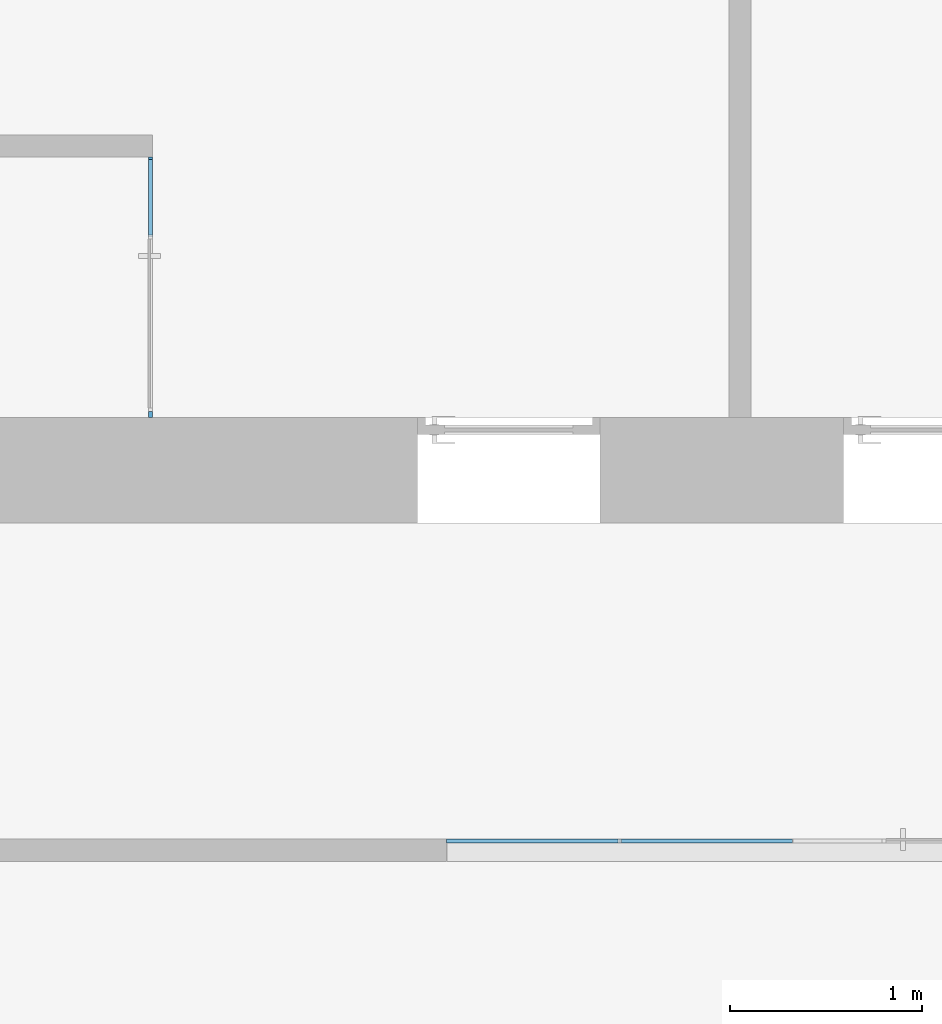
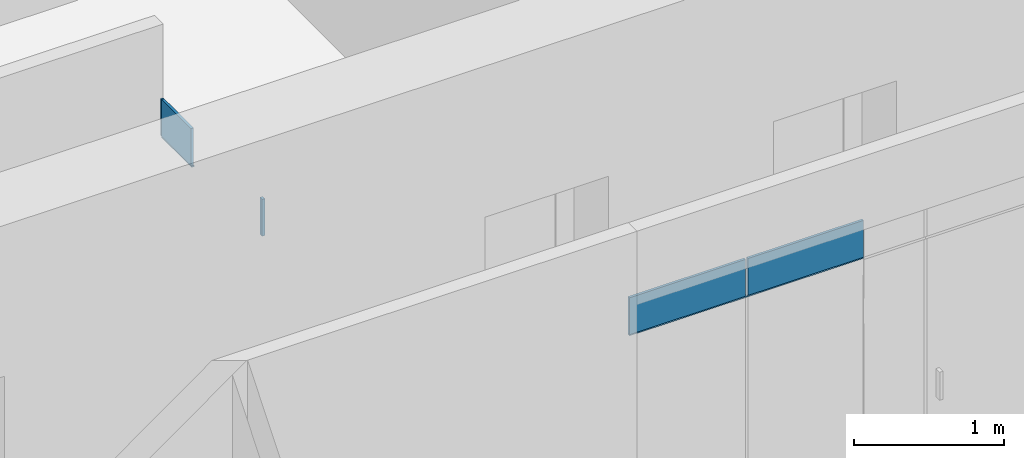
# One storey, part 39 of 73: 8 plates, 2 elements without a shape of their own.
"""IFC2X3 building model written with IfcOpenShell, lengths in millimetres."""

from ifc_helpers import new_model, entity, si_unit, converted_unit, derived_unit, direction, frame, origin, origin_2d_with_axis, place, context, subcontext, project, spatial, rectangle, extrude, source, transform, mapped, material, layer, layer_set, layer_usage, type_object, type_shapes, element, aggregate, save


model = new_model("IFC2X3")

# Units and contexts
model_context = context("Model", 3, precision=0.01, world=origin(), true_north=direction((6.12303176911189e-17, 1.0)))
body_context = subcontext(model_context, "Body", "Model", "MODEL_VIEW")
ifc_project = project(units=[si_unit("LENGTHUNIT", "METRE", prefix="MILLI"), si_unit("AREAUNIT", "SQUARE_METRE"), si_unit("VOLUMEUNIT", "CUBIC_METRE"), converted_unit("PLANEANGLEUNIT", "DEGREE", entity("IfcRatioMeasure", 0.0174532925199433), si_unit("PLANEANGLEUNIT", "RADIAN"), dimensions=[0, 0, 0, 0, 0, 0, 0]), si_unit("MASSUNIT", "GRAM", prefix="KILO"), derived_unit("MASSDENSITYUNIT", [(si_unit("MASSUNIT", "GRAM", prefix="KILO"), 1), (si_unit("LENGTHUNIT", "METRE"), -3)]), si_unit("TIMEUNIT", "SECOND"), si_unit("FREQUENCYUNIT", "HERTZ"), si_unit("THERMODYNAMICTEMPERATUREUNIT", "DEGREE_CELSIUS"), derived_unit("THERMALTRANSMITTANCEUNIT", [(si_unit("MASSUNIT", "GRAM", prefix="KILO"), 1), (si_unit("THERMODYNAMICTEMPERATUREUNIT", "KELVIN"), -1), (si_unit("TIMEUNIT", "SECOND"), -3)]), derived_unit("VOLUMETRICFLOWRATEUNIT", [(si_unit("LENGTHUNIT", "METRE"), 3), (si_unit("TIMEUNIT", "SECOND"), -1)]), si_unit("ELECTRICCURRENTUNIT", "AMPERE"), si_unit("ELECTRICVOLTAGEUNIT", "VOLT"), si_unit("POWERUNIT", "WATT"), si_unit("FORCEUNIT", "NEWTON", prefix="KILO"), si_unit("ILLUMINANCEUNIT", "LUX"), si_unit("LUMINOUSFLUXUNIT", "LUMEN"), si_unit("LUMINOUSINTENSITYUNIT", "CANDELA"), derived_unit("USERDEFINED", [(si_unit("MASSUNIT", "GRAM", prefix="KILO"), -1), (si_unit("LENGTHUNIT", "METRE"), -2), (si_unit("TIMEUNIT", "SECOND"), 3), (si_unit("LUMINOUSFLUXUNIT", "LUMEN"), 1)]), derived_unit("LINEARVELOCITYUNIT", [(si_unit("LENGTHUNIT", "METRE"), 1), (si_unit("TIMEUNIT", "SECOND"), -1)]), si_unit("PRESSUREUNIT", "PASCAL"), derived_unit("USERDEFINED", [(si_unit("LENGTHUNIT", "METRE"), -2), (si_unit("MASSUNIT", "GRAM", prefix="KILO"), 1), (si_unit("TIMEUNIT", "SECOND"), -2)])], contexts=[model_context])

# Site, building, storey
site_placement = place(None, frame((-151.875543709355, 2715.0, 0.0)))
site = spatial("IfcSite", under=ifc_project, at=site_placement, Name="Surface", CompositionType="ELEMENT")
building_placement = place(site_placement, origin())
building = spatial("IfcBuilding", under=site, at=building_placement, CompositionType="ELEMENT")
storey_placement = place(building_placement, frame((0.0, 0.0, 6730.43000000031)))
storey = spatial("IfcBuildingStorey", under=building, at=storey_placement, Name="3 korrus", CompositionType="ELEMENT", Elevation=6730.43000000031)

# Curtain wall, plates
curtain_wall_type_1 = type_object("IfcCurtainWallType", Name="Curtain Wall:Klaassein KLS-17", PredefinedType="NOTDEFINED")
curtain_wall_1_placement = place(storey_placement, frame((0.0, 0.0, -6730.43000000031)))
curtain_wall_1 = element("IfcCurtainWall", 1, at=curtain_wall_1_placement, inside=storey, type_object=curtain_wall_type_1, Name="Curtain Wall:Klaassein KLS-17", ObjectType="Curtain Wall:Klaassein KLS-17")
ifc_material = material(Name="<Unnamed>")
ifc_layer = layer(ifc_material, 20.0)
ifc_layer_set = layer_set([ifc_layer], Name="Curtain Wall:Klaassein KLS-01")
ifc_layer_usage_1 = layer_usage(ifc_layer_set, "AXIS3", "POSITIVE", 0.0)
plate_type_1 = type_object("IfcPlateType", Name="Glazed", PredefinedType="CURTAIN_PANEL", material=ifc_layer_set)
shared_shape_1 = source(origin(), body_context, "Body", "SweptSolid", [
    extrude(rectangle(XDim=20.0, YDim=901.999999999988, at=origin_2d_with_axis()), frame((0.0, 0.0, 0.0), z_axis=(0.0, 0.0, 1.0), x_axis=(0.0, 1.0, 0.0)), (0.0, 0.0, 1.0), 9.99999999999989),
])
type_shapes(plate_type_1, [shared_shape_1])
plate_1_placement = place(curtain_wall_1_placement, frame((12564.5647264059, 4355.04493399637, 8820.43000000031)))
plate_1 = element("IfcPlate", 2, at=plate_1_placement, type_object=plate_type_1, material=ifc_layer_usage_1, Name="System Panel:Glazed", ObjectType="Glazed", context=body_context, shape_type="MappedRepresentation", body=[
    mapped(shared_shape_1, transform((0.0, 0.0, 0.0), scale=1.0)),
])
ifc_layer_usage_2 = layer_usage(ifc_layer_set, "AXIS3", "POSITIVE", 0.0)
plate_type_2 = type_object("IfcPlateType", Name="Glazed", PredefinedType="CURTAIN_PANEL", material=ifc_layer_set)
shared_shape_2 = source(origin(), body_context, "Body", "SweptSolid", [
    extrude(rectangle(XDim=20.0, YDim=898.000000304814, at=origin_2d_with_axis()), frame((0.0, 0.0, 0.0), z_axis=(0.0, 0.0, 1.0), x_axis=(0.0, 1.0, 0.0)), (0.0, 0.0, 1.0), 9.99999999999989),
])
type_shapes(plate_type_2, [shared_shape_2])
plate_2_placement = place(curtain_wall_1_placement, frame((13464.5647265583, 4355.04493399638, 8820.43000000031)))
plate_2 = element("IfcPlate", 3, at=plate_2_placement, type_object=plate_type_2, material=ifc_layer_usage_2, Name="System Panel:Glazed", ObjectType="Glazed", context=body_context, shape_type="MappedRepresentation", body=[
    mapped(shared_shape_2, transform((0.0, 0.0, 0.0), scale=1.0)),
])
ifc_layer_usage_3 = layer_usage(ifc_layer_set, "AXIS3", "POSITIVE", 0.0)
plate_type_3 = type_object("IfcPlateType", Name="Glazed", PredefinedType="CURTAIN_PANEL", material=ifc_layer_set)
shared_shape_3 = source(origin(), body_context, "Body", "SweptSolid", [
    extrude(rectangle(XDim=20.0, YDim=891.999999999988, at=origin_2d_with_axis()), frame((0.0, 0.0, 0.0), z_axis=(0.0, 0.0, 1.0), x_axis=(0.0, 1.0, 0.0)), (0.0, 0.0, 1.0), 299.999999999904),
])
type_shapes(plate_type_3, [shared_shape_3])
plate_3_placement = place(curtain_wall_1_placement, frame((12559.5647264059, 4355.04493399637, 8830.43000000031)))
plate_3 = element("IfcPlate", 4, at=plate_3_placement, type_object=plate_type_3, material=ifc_layer_usage_3, Name="System Panel:Glazed", ObjectType="Glazed", context=body_context, shape_type="MappedRepresentation", body=[
    mapped(shared_shape_3, transform((0.0, 0.0, 0.0), scale=1.0)),
])
ifc_layer_usage_4 = layer_usage(ifc_layer_set, "AXIS3", "POSITIVE", 0.0)
plate_type_4 = type_object("IfcPlateType", Name="Glazed", PredefinedType="CURTAIN_PANEL", material=ifc_layer_set)
shared_shape_4 = source(origin(), body_context, "Body", "SweptSolid", [
    extrude(rectangle(XDim=20.0, YDim=888.000000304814, at=origin_2d_with_axis()), frame((0.0, 0.0, 0.0), z_axis=(0.0, 0.0, 1.0), x_axis=(0.0, 1.0, 0.0)), (0.0, 0.0, 1.0), 299.999999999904),
])
type_shapes(plate_type_4, [shared_shape_4])
plate_4_placement = place(curtain_wall_1_placement, frame((13469.5647265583, 4355.04493399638, 8830.43000000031)))
plate_4 = element("IfcPlate", 5, at=plate_4_placement, type_object=plate_type_4, material=ifc_layer_usage_4, Name="System Panel:Glazed", ObjectType="Glazed", context=body_context, shape_type="MappedRepresentation", body=[
    mapped(shared_shape_4, transform((0.0, 0.0, 0.0), scale=1.0)),
])
aggregate(curtain_wall_1, [plate_1, plate_2, plate_3, plate_4])

curtain_wall_type_2 = type_object("IfcCurtainWallType", Name="Curtain Wall:Klaassein KLS-10", PredefinedType="NOTDEFINED")
curtain_wall_2_placement = place(storey_placement, frame((0.0, 0.0, -6730.43000000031)))
curtain_wall_2 = element("IfcCurtainWall", 6, at=curtain_wall_2_placement, inside=storey, type_object=curtain_wall_type_2, Name="Curtain Wall:Klaassein KLS-10", ObjectType="Curtain Wall:Klaassein KLS-10")
ifc_layer_usage_5 = layer_usage(ifc_layer_set, "AXIS3", "POSITIVE", 0.0)
plate_type_5 = type_object("IfcPlateType", Name="Glazed", PredefinedType="CURTAIN_PANEL", material=ifc_layer_set)
shared_shape_5 = source(origin(), body_context, "Body", "SweptSolid", [
    extrude(rectangle(XDim=20.0, YDim=402.052019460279, at=origin_2d_with_axis()), frame((0.0, 0.0, 0.0), z_axis=(0.0, 0.0, 1.0), x_axis=(0.0, 1.0, 0.0)), (0.0, 0.0, 1.0), 9.99999999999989),
])
type_shapes(plate_type_5, [shared_shape_5])
plate_5_placement = place(curtain_wall_2_placement, frame((10572.8493480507, 7701.02600973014, 8820.43000000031), z_axis=(0.0, 0.0, 1.0), x_axis=(0.0, -1.0, 0.0)))
plate_5 = element("IfcPlate", 7, at=plate_5_placement, type_object=plate_type_5, material=ifc_layer_usage_5, Name="System Panel:Glazed", ObjectType="Glazed", context=body_context, shape_type="MappedRepresentation", body=[
    mapped(shared_shape_5, transform((0.0, 0.0, 0.0), scale=1.0)),
])
ifc_layer_usage_6 = layer_usage(ifc_layer_set, "AXIS3", "POSITIVE", 0.0)
plate_type_6 = type_object("IfcPlateType", Name="Glazed", PredefinedType="CURTAIN_PANEL", material=ifc_layer_set)
shared_shape_6 = source(origin(), body_context, "Body", "SweptSolid", [
    extrude(rectangle(XDim=20.0, YDim=13.0094386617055, at=origin_2d_with_axis()), frame((0.0, 0.0, 0.0), z_axis=(0.0, 0.0, 1.0), x_axis=(0.0, 1.0, 0.0)), (0.0, 0.0, 1.0), 299.999999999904),
])
type_shapes(plate_type_6, [shared_shape_6])
plate_6_placement = place(curtain_wall_2_placement, frame((10572.8493480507, 7908.55673879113, 8830.43000000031), z_axis=(0.0, 0.0, 1.0), x_axis=(0.0, -1.0, 0.0)))
plate_6 = element("IfcPlate", 8, at=plate_6_placement, type_object=plate_type_6, material=ifc_layer_usage_6, Name="System Panel:Glazed", ObjectType="Glazed", context=body_context, shape_type="MappedRepresentation", body=[
    mapped(shared_shape_6, transform((0.0, 0.0, 0.0), scale=1.0)),
])
ifc_layer_usage_7 = layer_usage(ifc_layer_set, "AXIS3", "POSITIVE", 0.0)
plate_type_7 = type_object("IfcPlateType", Name="Glazed", PredefinedType="CURTAIN_PANEL", material=ifc_layer_set)
shared_shape_7 = source(origin(), body_context, "Body", "SweptSolid", [
    extrude(rectangle(XDim=20.0, YDim=392.05201946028, at=origin_2d_with_axis()), frame((0.0, 0.0, 0.0), z_axis=(0.0, 0.0, 1.0), x_axis=(0.0, 1.0, 0.0)), (0.0, 0.0, 1.0), 299.999999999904),
])
type_shapes(plate_type_7, [shared_shape_7])
plate_7_placement = place(curtain_wall_2_placement, frame((10572.8493480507, 7706.02600973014, 8830.43000000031), z_axis=(0.0, 0.0, 1.0), x_axis=(0.0, -1.0, 0.0)))
plate_7 = element("IfcPlate", 9, at=plate_7_placement, type_object=plate_type_7, material=ifc_layer_usage_7, Name="System Panel:Glazed", ObjectType="Glazed", context=body_context, shape_type="MappedRepresentation", body=[
    mapped(shared_shape_7, transform((0.0, 0.0, 0.0), scale=1.0)),
])
ifc_layer_usage_8 = layer_usage(ifc_layer_set, "AXIS3", "POSITIVE", 0.0)
plate_type_8 = type_object("IfcPlateType", Name="Glazed", PredefinedType="CURTAIN_PANEL", material=ifc_layer_set)
shared_shape_8 = source(origin(), body_context, "Body", "SweptSolid", [
    extrude(rectangle(XDim=20.0, YDim=29.9999999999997, at=origin_2d_with_axis()), frame((0.0, 0.0, 0.0), z_axis=(0.0, 0.0, 1.0), x_axis=(0.0, 1.0, 0.0)), (0.0, 0.0, 1.0), 299.999999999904),
])
type_shapes(plate_type_8, [shared_shape_8])
plate_8_placement = place(curtain_wall_2_placement, frame((10572.8493480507, 6575.0, 8830.43000000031), z_axis=(0.0, 0.0, 1.0), x_axis=(0.0, -1.0, 0.0)))
plate_8 = element("IfcPlate", 10, at=plate_8_placement, type_object=plate_type_8, material=ifc_layer_usage_8, Name="System Panel:Glazed", ObjectType="Glazed", context=body_context, shape_type="MappedRepresentation", body=[
    mapped(shared_shape_8, transform((0.0, 0.0, 0.0), scale=1.0)),
])
aggregate(curtain_wall_2, [plate_5, plate_6, plate_7, plate_8])

save(model, "model.ifc")
